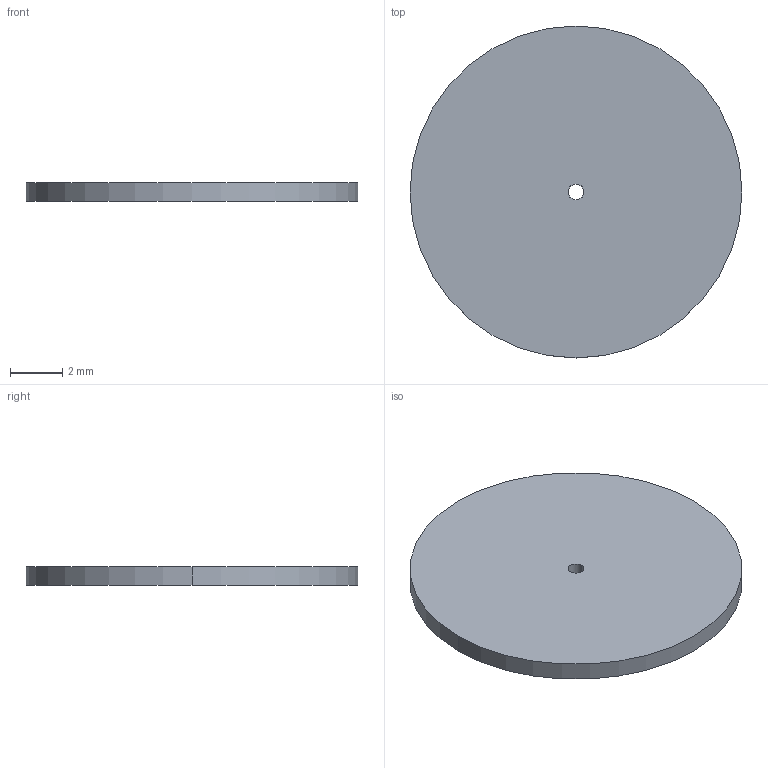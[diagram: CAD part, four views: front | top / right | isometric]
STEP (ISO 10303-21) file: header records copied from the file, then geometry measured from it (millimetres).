
FILE_DESCRIPTION((''),'2;1');
FILE_NAME('06MM','2022-04-24T',('Administrator'),(''),'CREO PARAMETRIC BY PTC INC, 2015290','CREO PARAMETRIC BY PTC INC, 2015290','');
FILE_SCHEMA(('CONFIG_CONTROL_DESIGN'));
Length unit declared in the file: millimetre
Products named in the file (1): 06MM
Bounding box: 12.7 x 12.7 x 0.7 mm (x, y, z)
Volume: 88.5 mm3; surface area: 282 mm2
Topology: 1 solids, 1 shells, 6 faces, 12 edges, 8 vertices
Faces by surface type: cylinder 4, plane 2
Entity records: 206 total; most frequent: DIRECTION 32, CARTESIAN_POINT 26, ORIENTED_EDGE 24, AXIS2_PLACEMENT_3D 14, EDGE_CURVE 12, VERTEX_POINT 8, EDGE_LOOP 8, CIRCLE 8
